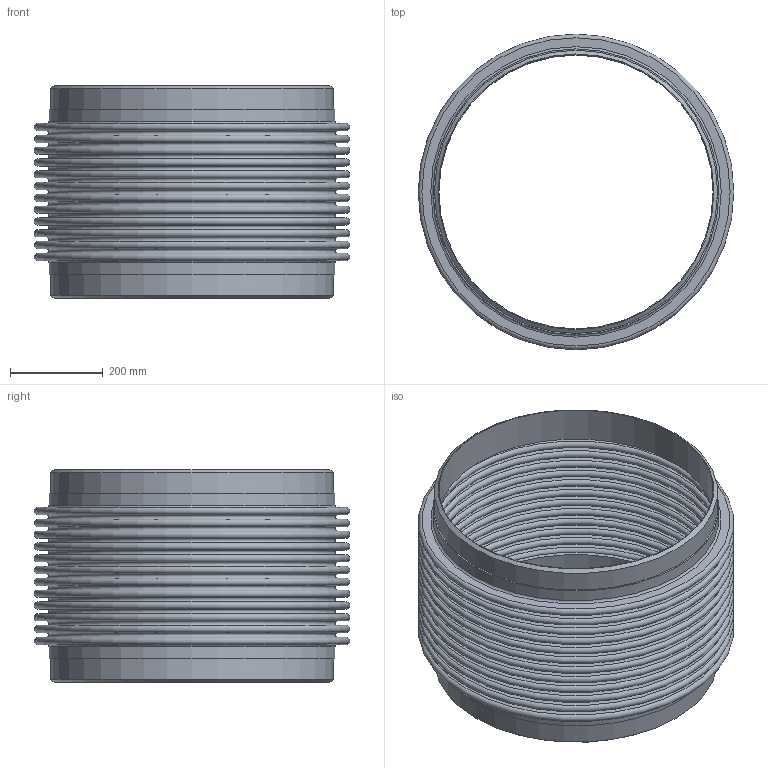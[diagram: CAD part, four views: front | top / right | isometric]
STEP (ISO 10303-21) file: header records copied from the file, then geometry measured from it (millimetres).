
FILE_DESCRIPTION(/* description */ ('EXPANSION JOINT,SINGLE, WELD ENDS,4 INCH NOMINAL'),/* implementation_level */ '2;1');
FILE_NAME(/* name */ 'ASSEMBLY US-24-12-300L.stp',/* time_stamp */ '2026-07-30T08:23:36-05:00',/* author */ ('jorgef'),/* organization */ (''),/* preprocessor_version */ 'ST-DEVELOPER v20.1',/* originating_system */ 'Autodesk Inventor 2026',/* authorisation */ '');
FILE_SCHEMA (('AUTOMOTIVE_DESIGN { 1 0 10303 214 3 1 1 }'));
Length unit declared in the file: inch
Products named in the file (3): ASSEMBLY  US-24-12-300L; STOCK BELLOW - US-24-12-300L; PIPE- US-24-12-300L
Assembly tree (3 placements, depth 2):
  ASSEMBLY  US-24-12-300L
    STOCK BELLOW - US-24-12-300L
    PIPE- US-24-12-300L  x2
Bounding box: 679.45 x 679.45 x 457.2 mm (x, y, z)
Volume: 8738185.1 mm3; surface area: 4664415 mm2
Topology: 5 solids, 5 shells, 118 faces, 180 edges, 121 vertices
Faces by surface type: plane 58, torus 50, cylinder 8, cone 2
Full cylindrical faces by diameter (mm): 590.55 x2, 609.6 x4, 615.696 x2
Entity records: 2769 total; most frequent: DIRECTION 573, CARTESIAN_POINT 405, ORIENTED_EDGE 342, AXIS2_PLACEMENT_3D 283, EDGE_CURVE 171, EDGE_LOOP 169, CIRCLE 164, VERTEX_POINT 114
